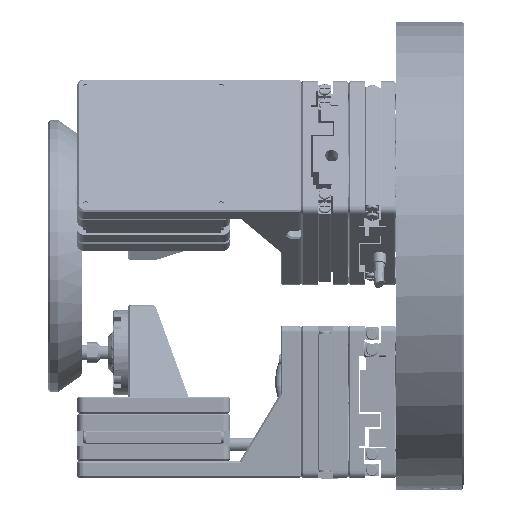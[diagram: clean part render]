
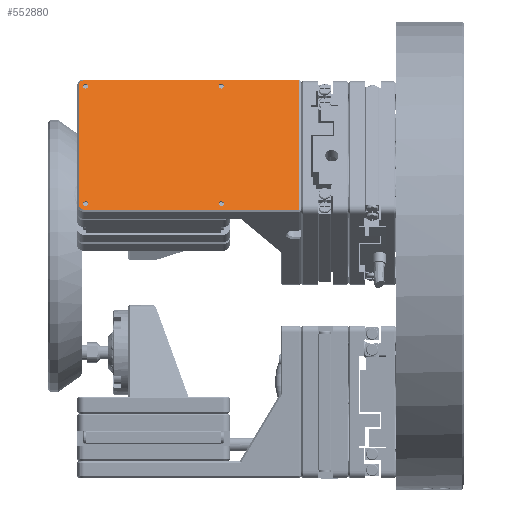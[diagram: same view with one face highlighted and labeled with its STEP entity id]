
A CAD part, left-side view. The second image highlights one B-rep face of the part: STEP entity #552880.
In plain terms, the highlighted planar face has unit normal (-0.866, 0, 0.5).
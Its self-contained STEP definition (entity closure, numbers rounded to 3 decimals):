
#5466 = FACE_BOUND ( 'NONE', #631435, .T. ) ;
#14444 = AXIS2_PLACEMENT_3D ( 'NONE', #630583, #283019, #220360 ) ;
#14709 = CARTESIAN_POINT ( 'NONE',  ( -67.725, 48., 13.697 ) ) ;
#15197 = DIRECTION ( 'NONE',  ( 0.866, 0., -0.5 ) ) ;
#17203 = EDGE_LOOP ( 'NONE', ( #321827, #435964 ) ) ;
#20217 = VERTEX_POINT ( 'NONE', #90258 ) ;
#22965 = VECTOR ( 'NONE', #577175, 1000. ) ;
#24946 = CARTESIAN_POINT ( 'NONE',  ( -45.475, 48., 52.236 ) ) ;
#27538 = CARTESIAN_POINT ( 'NONE',  ( -45.725, 48., 51.803 ) ) ;
#27608 = DIRECTION ( 'NONE',  ( 0.5, 0., 0.866 ) ) ;
#34764 = VECTOR ( 'NONE', #206710, 1000. ) ;
#38916 = CARTESIAN_POINT ( 'NONE',  ( -46.325, 111.5, 50.763 ) ) ;
#42937 = DIRECTION ( 'NONE',  ( 0.5, 0., 0.866 ) ) ;
#43096 = CIRCLE ( 'NONE', #53877, 0.8 ) ;
#45735 = DIRECTION ( 'NONE',  ( 0.5, 0., 0.866 ) ) ;
#53877 = AXIS2_PLACEMENT_3D ( 'NONE', #327833, #347393, #42937 ) ;
#55506 = CARTESIAN_POINT ( 'NONE',  ( -67.125, 71.5, 14.737 ) ) ;
#57468 = DIRECTION ( 'NONE',  ( 0.5, 0., 0.866 ) ) ;
#59664 = DIRECTION ( 'NONE',  ( -0.5, 0., -0.866 ) ) ;
#61480 = FACE_BOUND ( 'NONE', #557043, .T. ) ;
#67871 = VERTEX_POINT ( 'NONE', #38916 ) ;
#76689 = DIRECTION ( 'NONE',  ( 0.5, 0., 0.866 ) ) ;
#76911 = VERTEX_POINT ( 'NONE', #484939 ) ;
#83207 = CARTESIAN_POINT ( 'NONE',  ( -46.725, 111.5, 50.071 ) ) ;
#83654 = DIRECTION ( 'NONE',  ( -0.866, 0., 0.5 ) ) ;
#84286 = CARTESIAN_POINT ( 'NONE',  ( -46.725, 111.5, 50.071 ) ) ;
#90258 = CARTESIAN_POINT ( 'NONE',  ( -45.725, 112., 51.803 ) ) ;
#97129 = VERTEX_POINT ( 'NONE', #272300 ) ;
#117734 = VERTEX_POINT ( 'NONE', #218098 ) ;
#125423 = AXIS2_PLACEMENT_3D ( 'NONE', #554399, #455008, #395652 ) ;
#126656 = EDGE_LOOP ( 'NONE', ( #526143, #585720, #196621, #177810, #654739, #221248 ) ) ;
#138270 = EDGE_CURVE ( 'NONE', #97129, #76911, #142015, .T. ) ;
#139862 = CARTESIAN_POINT ( 'NONE',  ( -66.725, 71.5, 15.429 ) ) ;
#142015 = CIRCLE ( 'NONE', #490475, 1.5 ) ;
#157200 = CIRCLE ( 'NONE', #484863, 0.8 ) ;
#171068 = AXIS2_PLACEMENT_3D ( 'NONE', #191421, #648080, #591739 ) ;
#175720 = ORIENTED_EDGE ( 'NONE', *, *, #526412, .F. ) ;
#177810 = ORIENTED_EDGE ( 'NONE', *, *, #465178, .T. ) ;
#180645 = CIRCLE ( 'NONE', #445220, 1.5 ) ;
#186861 = AXIS2_PLACEMENT_3D ( 'NONE', #600283, #610176, #57468 ) ;
#188224 = CARTESIAN_POINT ( 'NONE',  ( -66.325, 71.5, 16.122 ) ) ;
#191421 = CARTESIAN_POINT ( 'NONE',  ( -46.725, 71.5, 50.071 ) ) ;
#196621 = ORIENTED_EDGE ( 'NONE', *, *, #138270, .T. ) ;
#204916 = CIRCLE ( 'NONE', #416574, 0.8 ) ;
#206710 = DIRECTION ( 'NONE',  ( 0., -1., 0. ) ) ;
#212448 = VECTOR ( 'NONE', #45735, 1000. ) ;
#218098 = CARTESIAN_POINT ( 'NONE',  ( -66.325, 111.5, 16.122 ) ) ;
#220360 = DIRECTION ( 'NONE',  ( 0.5, 0., 0.866 ) ) ;
#221248 = ORIENTED_EDGE ( 'NONE', *, *, #290464, .T. ) ;
#232276 = VERTEX_POINT ( 'NONE', #596866 ) ;
#236183 = EDGE_CURVE ( 'NONE', #302839, #67871, #204916, .T. ) ;
#239839 = CIRCLE ( 'NONE', #186861, 0.8 ) ;
#249203 = ORIENTED_EDGE ( 'NONE', *, *, #236183, .F. ) ;
#252751 = VECTOR ( 'NONE', #431195, 1000. ) ;
#253031 = VERTEX_POINT ( 'NONE', #314525 ) ;
#259013 = EDGE_CURVE ( 'NONE', #67871, #302839, #157200, .T. ) ;
#261987 = ORIENTED_EDGE ( 'NONE', *, *, #259013, .F. ) ;
#262856 = ORIENTED_EDGE ( 'NONE', *, *, #646331, .F. ) ;
#272300 = CARTESIAN_POINT ( 'NONE',  ( -66.975, 113.5, 14.996 ) ) ;
#276058 = LINE ( 'NONE', #434807, #22965 ) ;
#283019 = DIRECTION ( 'NONE',  ( -0.866, 0., 0.5 ) ) ;
#286100 = DIRECTION ( 'NONE',  ( -0.866, 0., 0.5 ) ) ;
#290464 = EDGE_CURVE ( 'NONE', #253031, #20217, #480716, .T. ) ;
#291671 = AXIS2_PLACEMENT_3D ( 'NONE', #24946, #15197, #617470 ) ;
#302839 = VERTEX_POINT ( 'NONE', #509473 ) ;
#310465 = EDGE_LOOP ( 'NONE', ( #261987, #249203 ) ) ;
#311222 = CARTESIAN_POINT ( 'NONE',  ( -46.475, 112., 50.504 ) ) ;
#313066 = FACE_BOUND ( 'NONE', #310465, .T. ) ;
#314525 = CARTESIAN_POINT ( 'NONE',  ( -45.725, 48.5, 51.803 ) ) ;
#321827 = ORIENTED_EDGE ( 'NONE', *, *, #389160, .F. ) ;
#327833 = CARTESIAN_POINT ( 'NONE',  ( -66.725, 111.5, 15.429 ) ) ;
#334776 = DIRECTION ( 'NONE',  ( -0.866, 0., 0.5 ) ) ;
#341048 = EDGE_CURVE ( 'NONE', #402006, #253031, #468090, .T. ) ;
#347393 = DIRECTION ( 'NONE',  ( -0.866, 0., 0.5 ) ) ;
#349661 = FACE_BOUND ( 'NONE', #17203, .T. ) ;
#368057 = EDGE_CURVE ( 'NONE', #232276, #97129, #276058, .T. ) ;
#380874 = LINE ( 'NONE', #14709, #34764 ) ;
#389160 = EDGE_CURVE ( 'NONE', #479410, #627929, #568840, .T. ) ;
#390373 = EDGE_CURVE ( 'NONE', #627929, #479410, #559191, .T. ) ;
#395652 = DIRECTION ( 'NONE',  ( 0.5, 0., 0.866 ) ) ;
#400585 = CARTESIAN_POINT ( 'NONE',  ( -66.975, 112., 14.996 ) ) ;
#402006 = VERTEX_POINT ( 'NONE', #615795 ) ;
#416574 = AXIS2_PLACEMENT_3D ( 'NONE', #84286, #286100, #481429 ) ;
#431032 = VERTEX_POINT ( 'NONE', #603226 ) ;
#431195 = DIRECTION ( 'NONE',  ( 0., 1., 0. ) ) ;
#434807 = CARTESIAN_POINT ( 'NONE',  ( -45.475, 113.5, 52.236 ) ) ;
#435964 = ORIENTED_EDGE ( 'NONE', *, *, #390373, .F. ) ;
#442059 = AXIS2_PLACEMENT_3D ( 'NONE', #139862, #83654, #27608 ) ;
#445220 = AXIS2_PLACEMENT_3D ( 'NONE', #311222, #512877, #59664 ) ;
#450191 = DIRECTION ( 'NONE',  ( -0.866, 0., 0.5 ) ) ;
#455008 = DIRECTION ( 'NONE',  ( -0.866, 0., 0.5 ) ) ;
#465178 = EDGE_CURVE ( 'NONE', #76911, #402006, #380874, .T. ) ;
#468090 = LINE ( 'NONE', #598287, #212448 ) ;
#475856 = ORIENTED_EDGE ( 'NONE', *, *, #477343, .F. ) ;
#477343 = EDGE_CURVE ( 'NONE', #431032, #117734, #43096, .T. ) ;
#479410 = VERTEX_POINT ( 'NONE', #188224 ) ;
#480716 = LINE ( 'NONE', #27538, #252751 ) ;
#481429 = DIRECTION ( 'NONE',  ( 0.5, 0., 0.866 ) ) ;
#484863 = AXIS2_PLACEMENT_3D ( 'NONE', #83207, #334776, #76689 ) ;
#484939 = CARTESIAN_POINT ( 'NONE',  ( -67.725, 112., 13.697 ) ) ;
#489948 = DIRECTION ( 'NONE',  ( -0.5, 0., -0.866 ) ) ;
#490475 = AXIS2_PLACEMENT_3D ( 'NONE', #400585, #450191, #489948 ) ;
#504927 = FACE_OUTER_BOUND ( 'NONE', #126656, .T. ) ;
#509473 = CARTESIAN_POINT ( 'NONE',  ( -47.125, 111.5, 49.378 ) ) ;
#512877 = DIRECTION ( 'NONE',  ( -0.866, 0., 0.5 ) ) ;
#526143 = ORIENTED_EDGE ( 'NONE', *, *, #607724, .T. ) ;
#526412 = EDGE_CURVE ( 'NONE', #545161, #593910, #542816, .T. ) ;
#533192 = CARTESIAN_POINT ( 'NONE',  ( -46.325, 71.5, 50.763 ) ) ;
#542816 = CIRCLE ( 'NONE', #14444, 0.8 ) ;
#545161 = VERTEX_POINT ( 'NONE', #596095 ) ;
#551332 = CIRCLE ( 'NONE', #171068, 0.8 ) ;
#551447 = PLANE ( 'NONE',  #291671 ) ;
#552880 = ADVANCED_FACE ( 'NONE', ( #504927, #313066, #61480, #349661, #5466 ), #551447, .F. ) ;
#554399 = CARTESIAN_POINT ( 'NONE',  ( -66.725, 71.5, 15.429 ) ) ;
#557043 = EDGE_LOOP ( 'NONE', ( #576333, #475856 ) ) ;
#559191 = CIRCLE ( 'NONE', #442059, 0.8 ) ;
#568840 = CIRCLE ( 'NONE', #125423, 0.8 ) ;
#576333 = ORIENTED_EDGE ( 'NONE', *, *, #652378, .F. ) ;
#577175 = DIRECTION ( 'NONE',  ( -0.5, 0., -0.866 ) ) ;
#585720 = ORIENTED_EDGE ( 'NONE', *, *, #368057, .T. ) ;
#591739 = DIRECTION ( 'NONE',  ( 0.5, 0., 0.866 ) ) ;
#593910 = VERTEX_POINT ( 'NONE', #533192 ) ;
#596095 = CARTESIAN_POINT ( 'NONE',  ( -47.125, 71.5, 49.378 ) ) ;
#596866 = CARTESIAN_POINT ( 'NONE',  ( -46.475, 113.5, 50.504 ) ) ;
#598287 = CARTESIAN_POINT ( 'NONE',  ( -45.475, 48.5, 52.236 ) ) ;
#600283 = CARTESIAN_POINT ( 'NONE',  ( -66.725, 111.5, 15.429 ) ) ;
#603226 = CARTESIAN_POINT ( 'NONE',  ( -67.125, 111.5, 14.737 ) ) ;
#607724 = EDGE_CURVE ( 'NONE', #20217, #232276, #180645, .T. ) ;
#610176 = DIRECTION ( 'NONE',  ( -0.866, 0., 0.5 ) ) ;
#615795 = CARTESIAN_POINT ( 'NONE',  ( -67.725, 48.5, 13.697 ) ) ;
#617470 = DIRECTION ( 'NONE',  ( -0.5, 0., -0.866 ) ) ;
#627929 = VERTEX_POINT ( 'NONE', #55506 ) ;
#630583 = CARTESIAN_POINT ( 'NONE',  ( -46.725, 71.5, 50.071 ) ) ;
#631435 = EDGE_LOOP ( 'NONE', ( #262856, #175720 ) ) ;
#646331 = EDGE_CURVE ( 'NONE', #593910, #545161, #551332, .T. ) ;
#648080 = DIRECTION ( 'NONE',  ( -0.866, 0., 0.5 ) ) ;
#652378 = EDGE_CURVE ( 'NONE', #117734, #431032, #239839, .T. ) ;
#654739 = ORIENTED_EDGE ( 'NONE', *, *, #341048, .T. ) ;
